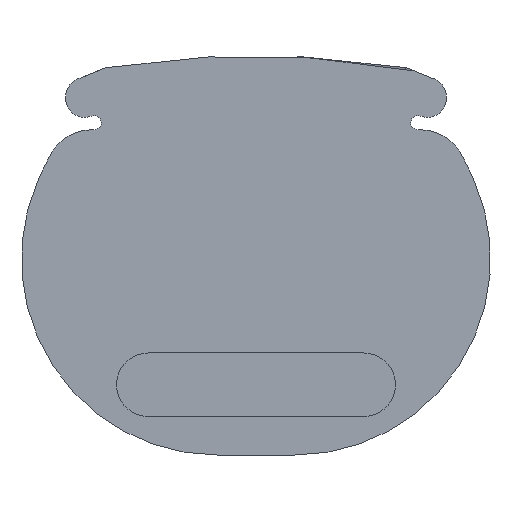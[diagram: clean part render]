
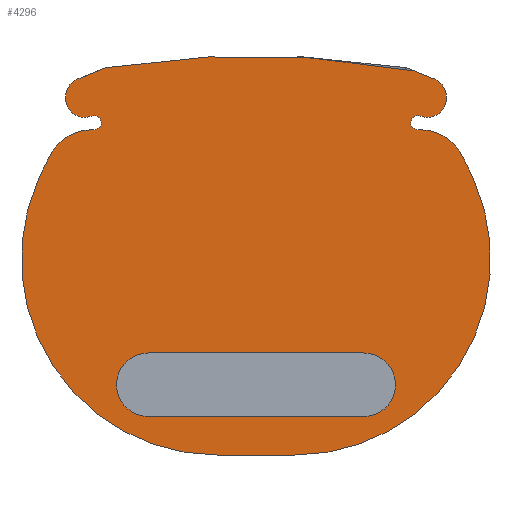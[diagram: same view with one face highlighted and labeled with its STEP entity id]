
A CAD part, left-side view. The second image highlights one B-rep face of the part: STEP entity #4296.
In plain terms, the highlighted planar face has unit normal (-1, 0, 0).
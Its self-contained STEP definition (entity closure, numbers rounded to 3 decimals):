
#155=FACE_BOUND('',#604,.T.);
#205=PLANE('',#4712);
#378=FACE_OUTER_BOUND('',#603,.T.);
#603=EDGE_LOOP('',(#3585,#3586,#3587,#3588,#3589,#3590,#3591,#3592,#3593,
#3594,#3595,#3596,#3597,#3598,#3599,#3600,#3601,#3602));
#604=EDGE_LOOP('',(#3603,#3604,#3605,#3606));
#846=CIRCLE('',#4602,4.422);
#884=CIRCLE('',#4650,4.422);
#885=CIRCLE('',#4654,51.838);
#886=CIRCLE('',#4656,27.3);
#887=CIRCLE('',#4659,27.3);
#888=CIRCLE('',#4661,51.838);
#889=CIRCLE('',#4663,7.3);
#890=CIRCLE('',#4665,2.8);
#902=CIRCLE('',#4694,1.);
#903=CIRCLE('',#4696,2.8);
#904=CIRCLE('',#4698,7.3);
#905=CIRCLE('',#4700,2.46);
#906=CIRCLE('',#4702,6.34);
#907=CIRCLE('',#4704,1.);
#908=CIRCLE('',#4706,2.46);
#909=CIRCLE('',#4708,6.34);
#910=CIRCLE('',#4710,125.078);
#1126=LINE('',#7366,#1407);
#1155=LINE('',#7503,#1436);
#1156=LINE('',#7510,#1437);
#1161=LINE('',#7524,#1442);
#1168=LINE('',#7549,#1449);
#1407=VECTOR('',#5408,10.);
#1436=VECTOR('',#5541,10.);
#1437=VECTOR('',#5544,10.);
#1442=VECTOR('',#5559,10.);
#1449=VECTOR('',#5584,10.);
#1819=VERTEX_POINT('',#7363);
#1820=VERTEX_POINT('',#7365);
#1822=VERTEX_POINT('',#7371);
#1876=VERTEX_POINT('',#7498);
#1877=VERTEX_POINT('',#7505);
#1878=VERTEX_POINT('',#7509);
#1879=VERTEX_POINT('',#7513);
#1880=VERTEX_POINT('',#7515);
#1881=VERTEX_POINT('',#7519);
#1882=VERTEX_POINT('',#7523);
#1883=VERTEX_POINT('',#7527);
#1884=VERTEX_POINT('',#7531);
#1885=VERTEX_POINT('',#7535);
#1886=VERTEX_POINT('',#7539);
#1887=VERTEX_POINT('',#7541);
#1888=VERTEX_POINT('',#7545);
#1901=VERTEX_POINT('',#7605);
#1902=VERTEX_POINT('',#7606);
#1903=VERTEX_POINT('',#7611);
#1904=VERTEX_POINT('',#7615);
#1905=VERTEX_POINT('',#7623);
#1906=VERTEX_POINT('',#7624);
#2375=EDGE_CURVE('',#1820,#1819,#1126,.T.);
#2379=EDGE_CURVE('',#1819,#1822,#846,.T.);
#2441=EDGE_CURVE('',#1876,#1820,#884,.T.);
#2444=EDGE_CURVE('',#1822,#1876,#1155,.T.);
#2446=EDGE_CURVE('',#1878,#1877,#1156,.T.);
#2449=EDGE_CURVE('',#1880,#1879,#885,.T.);
#2451=EDGE_CURVE('',#1881,#1880,#886,.T.);
#2453=EDGE_CURVE('',#1882,#1881,#1161,.T.);
#2455=EDGE_CURVE('',#1883,#1882,#887,.T.);
#2457=EDGE_CURVE('',#1884,#1883,#888,.T.);
#2460=EDGE_CURVE('',#1885,#1884,#889,.T.);
#2462=EDGE_CURVE('',#1887,#1886,#890,.T.);
#2465=EDGE_CURVE('',#1888,#1887,#1168,.T.);
#2493=EDGE_CURVE('',#1901,#1902,#902,.T.);
#2497=EDGE_CURVE('',#1903,#1878,#903,.T.);
#2499=EDGE_CURVE('',#1879,#1904,#904,.T.);
#2500=EDGE_CURVE('',#1902,#1903,#905,.T.);
#2501=EDGE_CURVE('',#1904,#1901,#906,.T.);
#2502=EDGE_CURVE('',#1905,#1906,#907,.T.);
#2505=EDGE_CURVE('',#1886,#1905,#908,.T.);
#2506=EDGE_CURVE('',#1906,#1885,#909,.T.);
#2507=EDGE_CURVE('',#1877,#1888,#910,.T.);
#3585=ORIENTED_EDGE('',*,*,#2507,.T.);
#3586=ORIENTED_EDGE('',*,*,#2465,.T.);
#3587=ORIENTED_EDGE('',*,*,#2462,.T.);
#3588=ORIENTED_EDGE('',*,*,#2505,.T.);
#3589=ORIENTED_EDGE('',*,*,#2502,.T.);
#3590=ORIENTED_EDGE('',*,*,#2506,.T.);
#3591=ORIENTED_EDGE('',*,*,#2460,.T.);
#3592=ORIENTED_EDGE('',*,*,#2457,.T.);
#3593=ORIENTED_EDGE('',*,*,#2455,.T.);
#3594=ORIENTED_EDGE('',*,*,#2453,.T.);
#3595=ORIENTED_EDGE('',*,*,#2451,.T.);
#3596=ORIENTED_EDGE('',*,*,#2449,.T.);
#3597=ORIENTED_EDGE('',*,*,#2499,.T.);
#3598=ORIENTED_EDGE('',*,*,#2501,.T.);
#3599=ORIENTED_EDGE('',*,*,#2493,.T.);
#3600=ORIENTED_EDGE('',*,*,#2500,.T.);
#3601=ORIENTED_EDGE('',*,*,#2497,.T.);
#3602=ORIENTED_EDGE('',*,*,#2446,.T.);
#3603=ORIENTED_EDGE('',*,*,#2444,.T.);
#3604=ORIENTED_EDGE('',*,*,#2441,.T.);
#3605=ORIENTED_EDGE('',*,*,#2375,.T.);
#3606=ORIENTED_EDGE('',*,*,#2379,.T.);
#4296=ADVANCED_FACE('',(#378,#155),#205,.F.);
#4602=AXIS2_PLACEMENT_3D('',#7373,#5415,#5416);
#4650=AXIS2_PLACEMENT_3D('',#7499,#5535,#5536);
#4654=AXIS2_PLACEMENT_3D('',#7516,#5549,#5550);
#4656=AXIS2_PLACEMENT_3D('',#7520,#5554,#5555);
#4659=AXIS2_PLACEMENT_3D('',#7528,#5563,#5564);
#4661=AXIS2_PLACEMENT_3D('',#7532,#5568,#5569);
#4663=AXIS2_PLACEMENT_3D('',#7537,#5574,#5575);
#4665=AXIS2_PLACEMENT_3D('',#7542,#5579,#5580);
#4694=AXIS2_PLACEMENT_3D('',#7607,#5655,#5656);
#4696=AXIS2_PLACEMENT_3D('',#7613,#5662,#5663);
#4698=AXIS2_PLACEMENT_3D('',#7617,#5667,#5668);
#4700=AXIS2_PLACEMENT_3D('',#7619,#5671,#5672);
#4702=AXIS2_PLACEMENT_3D('',#7621,#5675,#5676);
#4704=AXIS2_PLACEMENT_3D('',#7625,#5679,#5680);
#4706=AXIS2_PLACEMENT_3D('',#7629,#5685,#5686);
#4708=AXIS2_PLACEMENT_3D('',#7631,#5689,#5690);
#4710=AXIS2_PLACEMENT_3D('',#7633,#5693,#5694);
#4712=AXIS2_PLACEMENT_3D('',#7635,#5697,#5698);
#5408=DIRECTION('',(0.,-1.,0.));
#5415=DIRECTION('center_axis',(1.,0.,0.));
#5416=DIRECTION('ref_axis',(0.,0.,
1.));
#5535=DIRECTION('center_axis',(1.,0.,0.));
#5536=DIRECTION('ref_axis',(0.,0.,-1.));
#5541=DIRECTION('',(0.,1.,0.));
#5544=DIRECTION('',(0.,0.927,0.375));
#5549=DIRECTION('center_axis',(-1.,0.,0.));
#5550=DIRECTION('ref_axis',(0.,-0.913,0.408));
#5554=DIRECTION('center_axis',(-1.,0.,0.));
#5555=DIRECTION('ref_axis',(0.,0.,-1.));
#5559=DIRECTION('',(0.,-1.,0.));
#5563=DIRECTION('center_axis',(-1.,0.,0.));
#5564=DIRECTION('ref_axis',(0.,0.913,0.408));
#5568=DIRECTION('center_axis',(-1.,0.,0.));
#5569=DIRECTION('ref_axis',(0.,0.882,0.472));
#5574=DIRECTION('center_axis',(-1.,0.,0.));
#5575=DIRECTION('ref_axis',(0.,0.,1.));
#5579=DIRECTION('center_axis',(-1.,0.,0.));
#5580=DIRECTION('ref_axis',(0.,0.375,0.927));
#5584=DIRECTION('',(0.,0.927,-0.375));
#5655=DIRECTION('center_axis',(1.,0.,0.));
#5656=DIRECTION('ref_axis',(0.,-0.052,-0.999));
#5662=DIRECTION('center_axis',(-1.,0.,0.));
#5663=DIRECTION('ref_axis',(0.,0.,-1.));
#5667=DIRECTION('center_axis',(-1.,0.,0.));
#5668=DIRECTION('ref_axis',(0.,-0.882,0.472));
#5671=DIRECTION('center_axis',(-1.,0.,0.));
#5672=DIRECTION('ref_axis',(0.,0.414,0.91));
#5675=DIRECTION('center_axis',(-1.,0.,0.));
#5676=DIRECTION('ref_axis',(0.,-0.052,-0.999));
#5679=DIRECTION('center_axis',(1.,0.,0.));
#5680=DIRECTION('ref_axis',(0.,0.052,-0.999));
#5685=DIRECTION('center_axis',(-1.,0.,0.));
#5686=DIRECTION('ref_axis',(0.,-0.414,0.91));
#5689=DIRECTION('center_axis',(-1.,0.,0.));
#5690=DIRECTION('ref_axis',(0.,0.052,-0.999));
#5693=DIRECTION('center_axis',(-1.,0.,0.));
#5694=DIRECTION('ref_axis',(0.,-0.182,0.983));
#5697=DIRECTION('center_axis',(1.,0.,0.));
#5698=DIRECTION('ref_axis',(0.,0.,-1.));
#7363=CARTESIAN_POINT('',(-348.838,-16.215,-8.151));
#7365=CARTESIAN_POINT('',(-348.838,13.785,-8.151));
#7366=CARTESIAN_POINT('',(-348.838,-8.715,-8.151));
#7371=CARTESIAN_POINT('',(-348.838,-16.215,-16.995));
#7373=CARTESIAN_POINT('Origin',(-348.838,-16.215,-12.573));
#7498=CARTESIAN_POINT('',(-348.838,13.785,-16.995));
#7499=CARTESIAN_POINT('Origin',(-348.838,13.785,-12.573));
#7503=CARTESIAN_POINT('',(-348.838,6.285,-16.995));
#7505=CARTESIAN_POINT('',(-348.838,-23.274,31.132));
#7509=CARTESIAN_POINT('',(-348.838,-26.014,30.025));
#7510=CARTESIAN_POINT('',(-348.838,-26.014,30.025));
#7513=CARTESIAN_POINT('',(-348.838,-29.899,19.371));
#7515=CARTESIAN_POINT('',(-348.838,-31.523,16.056));
#7516=CARTESIAN_POINT('Origin',(-348.838,15.814,-5.073));
#7519=CARTESIAN_POINT('',(-348.838,-6.594,-22.371));
#7520=CARTESIAN_POINT('Origin',(-348.838,-6.594,4.929));
#7523=CARTESIAN_POINT('',(-348.838,4.163,-22.371));
#7524=CARTESIAN_POINT('',(-348.838,4.163,-22.371));
#7527=CARTESIAN_POINT('',(-348.838,29.093,16.056));
#7528=CARTESIAN_POINT('Origin',(-348.838,4.163,4.929));
#7531=CARTESIAN_POINT('',(-348.838,27.469,19.371));
#7532=CARTESIAN_POINT('Origin',(-348.838,-18.244,-5.073));
#7535=CARTESIAN_POINT('',(-348.838,26.254,21.03));
#7537=CARTESIAN_POINT('Origin',(-348.838,21.031,15.929));
#7539=CARTESIAN_POINT('',(-348.838,23.693,24.88));
#7541=CARTESIAN_POINT('',(-348.838,23.584,30.025));
#7542=CARTESIAN_POINT('Origin',(-348.838,22.535,27.429));
#7545=CARTESIAN_POINT('',(-348.838,19.724,31.585));
#7549=CARTESIAN_POINT('',(-348.838,20.843,31.132));
#7605=CARTESIAN_POINT('',(-348.838,-23.818,22.931));
#7606=CARTESIAN_POINT('',(-348.838,-24.153,24.852));
#7607=CARTESIAN_POINT('Origin',(-348.838,-23.766,23.93));
#7611=CARTESIAN_POINT('',(-348.838,-26.124,24.88));
#7613=CARTESIAN_POINT('Origin',(-348.838,-24.966,27.429));
#7615=CARTESIAN_POINT('',(-348.838,-28.684,21.03));
#7617=CARTESIAN_POINT('Origin',(-348.838,-23.462,15.929));
#7619=CARTESIAN_POINT('Origin',(-348.838,-25.106,27.12));
#7621=CARTESIAN_POINT('Origin',(-348.838,-24.149,16.6));
#7623=CARTESIAN_POINT('',(-348.838,21.723,24.852));
#7624=CARTESIAN_POINT('',(-348.838,21.388,22.931));
#7625=CARTESIAN_POINT('Origin',(-348.838,21.335,23.93));
#7629=CARTESIAN_POINT('Origin',(-348.838,22.676,27.12));
#7631=CARTESIAN_POINT('Origin',(-348.838,21.718,16.6));
#7633=CARTESIAN_POINT('Origin',(-348.838,-0.479,-91.851));
#7635=CARTESIAN_POINT('Origin',(-348.838,-1.215,7.467));
